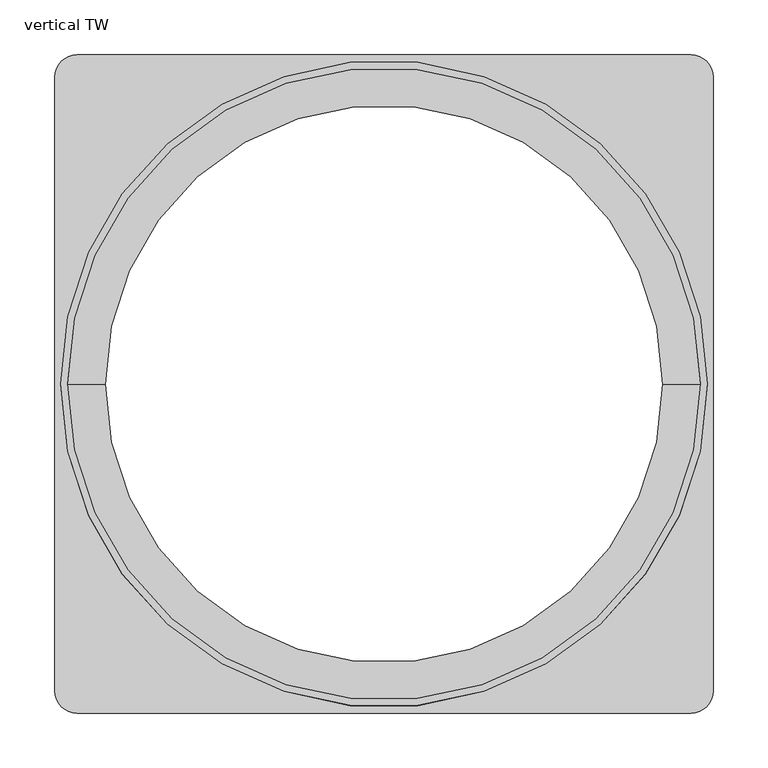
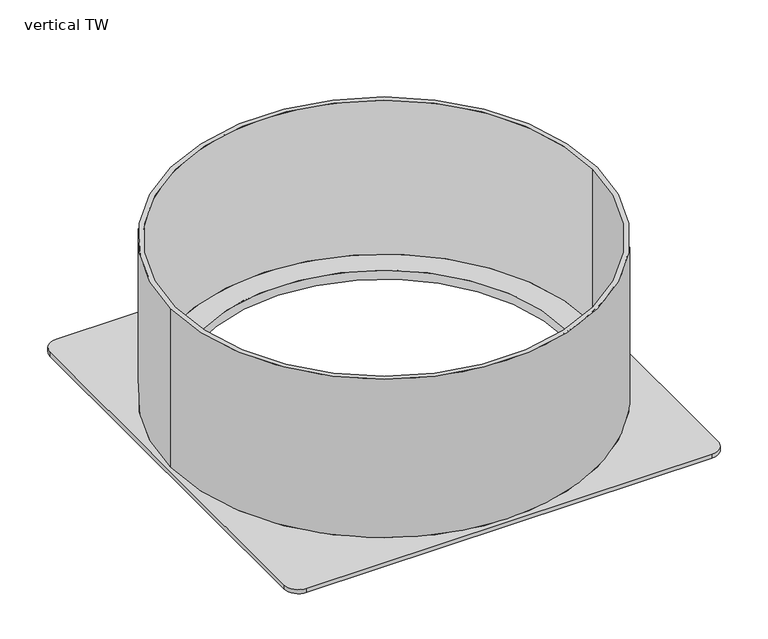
"""IFC4 building model written with IfcOpenShell, lengths in millimetres: unitary equipment geometry, Wavin_MechanicalEquipment_QBicPlusZDoNotUsePipeAdaptor : vertical TW."""

from ifc_helpers import new_model, si_unit, frame, origin, origin_with_axes, place, context, project, spatial, polyline, circle_curve, source, transform, mapped, element, save
from ifc_brep_helpers import plane_surface, cylinder_surface, revolved_surface, advanced_brep


def vertical_tw_2c09a284(model_context):
    return source(origin(), model_context, "Body", "AdvancedBrep", [
        advanced_brep(
        [(280.0, 300.0, 6.0), (-280.0, 300.0, 6.0), (-300.0, 280.0, 6.0), (-300.0, -280.0, 6.0), (-280.0, -300.0, 6.0), (280.0, -300.0, 6.0), (300.0, -280.0, 6.0), (300.0, 280.0, 6.0), (294.65, 0.0, 6.0), (-294.65, 0.0, 6.0), (280.0, 300.0, 0.0), (-280.0, 300.0, 0.0), (-300.0, 280.0, 0.0), (-300.0, -280.0, 0.0), (-280.0, -300.0, 0.0), (280.0, -300.0, 0.0), (300.0, -280.0, 0.0), (300.0, 280.0, 0.0), (-294.65, 0.0, 238.0), (294.65, 0.0, 238.0), (-288.15, 0.0, 238.0), (288.15, 0.0, 238.0), (254.25, 0.0, 0.0), (-254.25, 0.0, 0.0), (288.15, 0.0, 13.0), (-288.15, 0.0, 13.0), (-254.25, 0.0, 13.0), (254.25, 0.0, 13.0), (-254.25, 0.0, 6.0), (254.25, 0.0, 6.0)],
        [
            (0, 1),
            (1, 2, circle_curve(frame((-280.0, 280.0, 6.0), z_axis=(0.0, 0.0, 1.0), x_axis=(1.0, 0.0, 0.0)), 20.0)),
            (2, 3),
            (3, 4, circle_curve(frame((-280.0, -280.0, 6.0), z_axis=(0.0, 0.0, 1.0), x_axis=(1.0, 0.0, 0.0)), 20.0)),
            (4, 5),
            (5, 6, circle_curve(frame((280.0, -280.0, 6.0), z_axis=(0.0, 0.0, 1.0), x_axis=(1.0, 0.0, 0.0)), 20.0)),
            (6, 7),
            (7, 0, circle_curve(frame((280.0, 280.0, 6.0), z_axis=(0.0, 0.0, 1.0), x_axis=(1.0, 0.0, 0.0)), 20.0)),
            (8, 9, circle_curve(frame((0.0, 0.0, 6.0), z_axis=(0.0, 0.0, -1.0), x_axis=(1.0, 0.0, 0.0)), 294.65)),
            (9, 8, circle_curve(frame((0.0, 0.0, 6.0), z_axis=(0.0, 0.0, -1.0), x_axis=(1.0, 0.0, 0.0)), 294.65)),
            (0, 10),
            (10, 11),
            (11, 1),
            (2, 12),
            (12, 13),
            (13, 3),
            (4, 14),
            (14, 15),
            (15, 5),
            (6, 16),
            (16, 17),
            (17, 7),
            (18, 19, circle_curve(frame((0.0, 0.0, 238.0), z_axis=(0.0, 0.0, 1.0), x_axis=(1.0, 0.0, 0.0)), 294.65)),
            (19, 18, circle_curve(frame((0.0, 0.0, 238.0), z_axis=(0.0, 0.0, 1.0), x_axis=(1.0, 0.0, 0.0)), 294.65)),
            (20, 21, circle_curve(frame((0.0, 0.0, 238.0), z_axis=(0.0, 0.0, -1.0), x_axis=(-1.0, 0.0, 0.0)), 288.15)),
            (21, 20, circle_curve(frame((0.0, 0.0, 238.0), z_axis=(0.0, 0.0, -1.0), x_axis=(-1.0, 0.0, 0.0)), 288.15)),
            (10, 17, circle_curve(frame((280.0, 280.0, 0.0), z_axis=(0.0, 0.0, -1.0), x_axis=(1.0, 0.0, 0.0)), 20.0)),
            (16, 15, circle_curve(frame((280.0, -280.0, 0.0), z_axis=(0.0, 0.0, -1.0), x_axis=(1.0, 0.0, 0.0)), 20.0)),
            (14, 13, circle_curve(frame((-280.0, -280.0, 0.0), z_axis=(0.0, 0.0, -1.0), x_axis=(1.0, 0.0, 0.0)), 20.0)),
            (12, 11, circle_curve(frame((-280.0, 280.0, 0.0), z_axis=(0.0, 0.0, -1.0), x_axis=(1.0, 0.0, 0.0)), 20.0)),
            (22, 23, circle_curve(frame((0.0, 0.0, 0.0), z_axis=(0.0, 0.0, 1.0), x_axis=(-1.0, 0.0, 0.0)), 254.25)),
            (23, 22, circle_curve(frame((0.0, 0.0, 0.0), z_axis=(0.0, 0.0, 1.0), x_axis=(-1.0, 0.0, 0.0)), 254.25)),
            (18, 9),
            (8, 19),
            (24, 21),
            (20, 25),
            (25, 24, circle_curve(frame((0.0, 0.0, 13.0), z_axis=(0.0, 0.0, -1.0), x_axis=(-1.0, 0.0, 0.0)), 288.15)),
            (24, 25, circle_curve(frame((0.0, 0.0, 13.0), z_axis=(0.0, 0.0, -1.0), x_axis=(-1.0, 0.0, 0.0)), 288.15)),
            (25, 26),
            (26, 27, circle_curve(frame((0.0, 0.0, 13.0), z_axis=(0.0, 0.0, -1.0), x_axis=(-1.0, 0.0, 0.0)), 254.25)),
            (27, 24),
            (27, 26, circle_curve(frame((0.0, 0.0, 13.0), z_axis=(0.0, 0.0, -1.0), x_axis=(-1.0, 0.0, 0.0)), 254.25)),
            (26, 28),
            (28, 23),
            (22, 29),
            (29, 27),
        ],
        [
            plane_surface(frame((-280.0, 300.0, 6.0), z_axis=(0.0, 0.0, 1.0), x_axis=(-1.0, 0.0, 0.0))),
            plane_surface(frame((280.0, 300.0, 6.0), z_axis=(0.0, 1.0, 0.0), x_axis=(0.0, 0.0, -1.0))),
            plane_surface(frame((-300.0, 280.0, 6.0), z_axis=(-1.0, 0.0, 0.0), x_axis=(0.0, 0.0, -1.0))),
            plane_surface(frame((-280.0, -300.0, 6.0), z_axis=(0.0, -1.0, 0.0), x_axis=(0.0, 0.0, -1.0))),
            plane_surface(frame((300.0, -280.0, 6.0), z_axis=(1.0, 0.0, 0.0), x_axis=(0.0, 0.0, -1.0))),
            plane_surface(frame((294.65, 0.0, 238.0), z_axis=(0.0, 0.0, 1.0), x_axis=(0.0, 1.0, 0.0))),
            plane_surface(frame((294.65, 0.0, 0.0), z_axis=(0.0, 0.0, -1.0), x_axis=(0.0, -1.0, 0.0))),
            cylinder_surface(origin_with_axes(), 294.65),
            revolved_surface(polyline([(-288.15, 0.0, 13.0), (-288.15, 0.0, 238.0)]), (0.0, 0.0, -381.0), (0.0, 0.0, -1.0)),
            plane_surface(frame((0.0, 0.0, 13.0), z_axis=(0.0, 0.0, 1.0), x_axis=(-1.0, 0.0, 0.0))),
            revolved_surface(polyline([(-254.25, 0.0, 0.0), (-254.25, 0.0, 13.0)]), (0.0, 0.0, -381.0), (0.0, 0.0, -1.0)),
            cylinder_surface(frame((-280.0, 280.0, 0.0), z_axis=(0.0, 0.0, 1.0), x_axis=(1.0, 0.0, 0.0)), 20.0),
            cylinder_surface(frame((-280.0, -280.0, 0.0), z_axis=(0.0, 0.0, 1.0), x_axis=(1.0, 0.0, 0.0)), 20.0),
            cylinder_surface(frame((280.0, -280.0, 0.0), z_axis=(0.0, 0.0, 1.0), x_axis=(1.0, 0.0, 0.0)), 20.0),
            cylinder_surface(frame((280.0, 280.0, 0.0), z_axis=(0.0, 0.0, 1.0), x_axis=(1.0, 0.0, 0.0)), 20.0),
        ],
        [
            (0, [[1, 2, 3, 4, 5, 6, 7, 8], [9, 10]]),
            (1, [[-1, 11, 12, 13]]),
            (2, [[-3, 14, 15, 16]]),
            (3, [[-5, 17, 18, 19]]),
            (4, [[-7, 20, 21, 22]]),
            (5, [[23, 24], [25, 26]]),
            (6, [[27, -21, 28, -18, 29, -15, 30, -12], [31, 32]]),
            (7, [[-23, 33, -9, 34]]),
            (7, [[-24, -34, -10, -33]]),
            (8, [[35, -25, 36, 37]]),
            (8, [[-35, 38, -36, -26]]),
            (9, [[-37, 39, 40, 41]]),
            (9, [[-38, -41, 42, -39]]),
            (10, [[-40, 43, 44, -31, 45, 46]]),
            (10, [[-42, -46, -45, -32, -44, -43]]),
            (11, [[-2, -13, -30, -14]]),
            (12, [[-4, -16, -29, -17]]),
            (13, [[-6, -19, -28, -20]]),
            (14, [[-8, -22, -27, -11]]),
        ],
    ),
    ])


if __name__ == "__main__":
    model = new_model("IFC4")
    model_context = context("Model", 3, world=origin())
    ifc_project = project(units=[si_unit("LENGTHUNIT", "METRE", prefix="MILLI")], contexts=[model_context])
    site = spatial("IfcSite", under=ifc_project)
    building = spatial("IfcBuilding", under=site)
    placement = place(None, origin())
    vertical_tw_shape = vertical_tw_2c09a284(model_context)
    element("IfcUnitaryEquipment", 1, ObjectType="Wavin_MechanicalEquipment_QBicPlusZDoNotUsePipeAdaptor : vertical TW", at=placement, inside=building, context=model_context, shape_type="MappedRepresentation", body=[
        mapped(vertical_tw_shape, transform((0.0, 0.0, 0.0), x_axis=(1.0, 0.0, 0.0), y_axis=(0.0, 1.0, 0.0), z_axis=(0.0, 0.0, 1.0))),
    ])
    save(model, "model.ifc")
